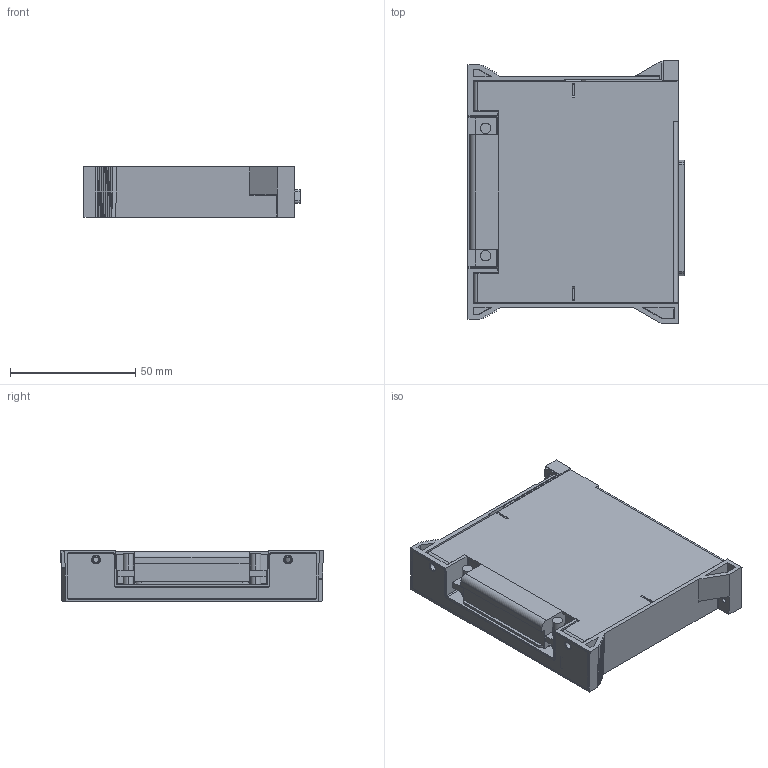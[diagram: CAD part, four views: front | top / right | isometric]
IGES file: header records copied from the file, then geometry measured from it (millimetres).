
Start section:  PTC IGES file: cu_tb-2715.igs
Global section: file name: cu_tb-2715.igs; native system: Pro/ENGINEER by Parametric Technology Corporation; preprocessor: 2006080; author: lmcdanie; organization: Unknown; date: 070813.145857; units: inch
Bounding box: 86.22 x 104.78 x 20.02 mm (x, y, z)
Surface area: 63971.4 mm2 (no closed solid volume)
Topology: 0 solids, 0 shells, 1088 faces, 5776 edges, 5716 vertices
Faces by surface type: bspline 761, revolution 327
